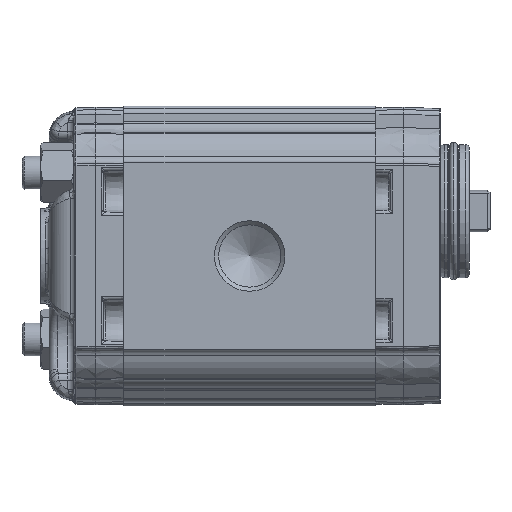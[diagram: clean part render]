
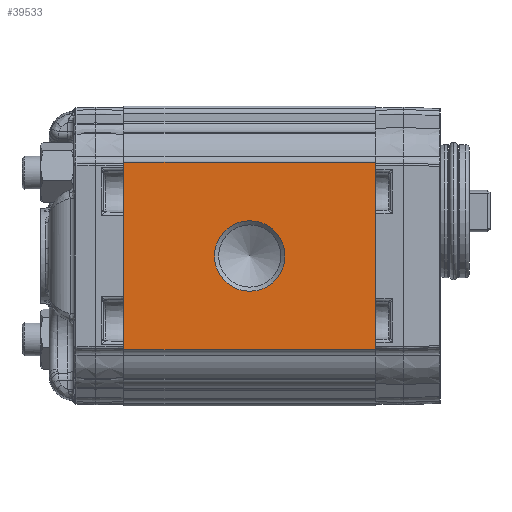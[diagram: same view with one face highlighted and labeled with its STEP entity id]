
A CAD part, left-side view. The second image highlights one B-rep face of the part: STEP entity #39533.
In plain terms, the highlighted planar face has unit normal (-1, 0, 0).
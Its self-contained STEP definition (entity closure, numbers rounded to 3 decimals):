
#2495=PLANE('',#42239);
#3236=LINE('',#76112,#4354);
#3246=LINE('',#76213,#4364);
#3265=LINE('',#76261,#4383);
#3266=LINE('',#76263,#4384);
#4354=VECTOR('',#47793,1000.);
#4364=VECTOR('',#47885,1000.);
#4383=VECTOR('',#47940,1000.);
#4384=VECTOR('',#47943,1000.);
#9268=ORIENTED_EDGE('',*,*,#15204,.F.);
#9269=ORIENTED_EDGE('',*,*,#15302,.T.);
#9270=ORIENTED_EDGE('',*,*,#15274,.T.);
#9271=ORIENTED_EDGE('',*,*,#15303,.T.);
#9272=ORIENTED_EDGE('',*,*,#15224,.F.);
#15204=EDGE_CURVE('',#18491,#18491,#20587,.F.);
#15224=EDGE_CURVE('',#18512,#18513,#3236,.T.);
#15274=EDGE_CURVE('',#18563,#18562,#3246,.T.);
#15302=EDGE_CURVE('',#18512,#18563,#3265,.T.);
#15303=EDGE_CURVE('',#18562,#18513,#3266,.F.);
#18491=VERTEX_POINT('',#76068);
#18512=VERTEX_POINT('',#76111);
#18513=VERTEX_POINT('',#76113);
#18562=VERTEX_POINT('',#76212);
#18563=VERTEX_POINT('',#76214);
#20587=CIRCLE('',#42143,8.475);
#22487=EDGE_LOOP('',(#9268));
#22488=EDGE_LOOP('',(#9269,#9270,#9271,#9272));
#24510=FACE_BOUND('',#22487,.T.);
#24511=FACE_BOUND('',#22488,.T.);
#39533=ADVANCED_FACE('',(#24510,#24511),#2495,.T.);
#42143=AXIS2_PLACEMENT_3D('',#76067,#47750,#47751);
#42239=AXIS2_PLACEMENT_3D('',#76290,#47986,#47987);
#47750=DIRECTION('',(1.,0.,0.));
#47751=DIRECTION('',(0.,0.,-1.));
#47793=DIRECTION('',(0.,0.,1.));
#47885=DIRECTION('',(0.,0.,1.));
#47940=DIRECTION('',(0.,-1.,0.));
#47943=DIRECTION('',(0.,-1.,0.));
#47986=DIRECTION('',(-1.,0.,0.));
#47987=DIRECTION('',(0.,0.,1.));
#76067=CARTESIAN_POINT('',(-33.,30.25,0.));
#76068=CARTESIAN_POINT('',(-33.,30.25,-8.475));
#76111=CARTESIAN_POINT('',(-33.,60.5,-22.5));
#76112=CARTESIAN_POINT('',(-33.,60.5,-21.711));
#76113=CARTESIAN_POINT('',(-33.,60.5,22.5));
#76212=CARTESIAN_POINT('',(-33.,0.,22.5));
#76213=CARTESIAN_POINT('',(-33.,0.,-21.711));
#76214=CARTESIAN_POINT('',(-33.,0.,-22.5));
#76261=CARTESIAN_POINT('',(-33.,60.5,-22.5));
#76263=CARTESIAN_POINT('',(-33.,60.5,22.5));
#76290=CARTESIAN_POINT('',(-33.,132.376,48.138));
